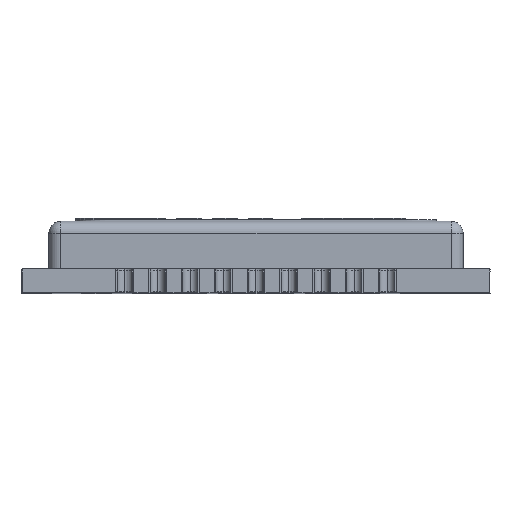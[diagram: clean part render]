
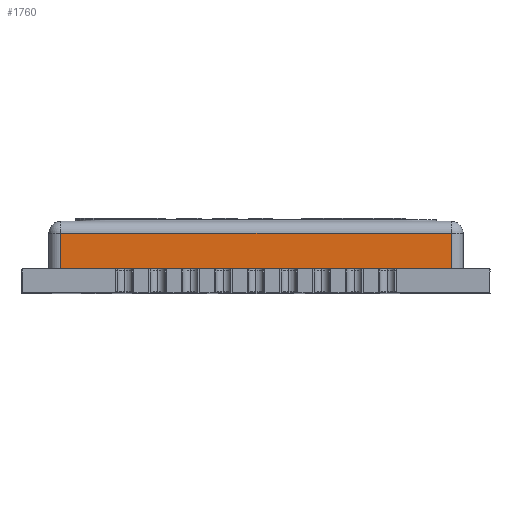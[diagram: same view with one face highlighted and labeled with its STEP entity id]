
A CAD part, top view. The second image highlights one B-rep face of the part: STEP entity #1760.
In plain terms, the highlighted planar face has unit normal (0, 0, 1).
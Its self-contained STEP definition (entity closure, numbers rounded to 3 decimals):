
#6 = VERTEX_POINT ( 'NONE', #90417 ) ;
#117 = VERTEX_POINT ( 'NONE', #124591 ) ;
#1760 = ADVANCED_FACE ( 'NONE', ( #21550 ), #117013, .F. ) ;
#9736 = AXIS2_PLACEMENT_3D ( 'NONE', #46463, #68114, #115439 ) ;
#13792 = EDGE_CURVE ( 'NONE', #117, #147650, #38745, .T. ) ;
#20067 = CARTESIAN_POINT ( 'NONE',  ( 6.55, 0.8, 7.9 ) ) ;
#21198 = DIRECTION ( 'NONE',  ( -1., 0., 0. ) ) ;
#21550 = FACE_OUTER_BOUND ( 'NONE', #96760, .T. ) ;
#27699 = VECTOR ( 'NONE', #111897, 1000. ) ;
#29439 = CARTESIAN_POINT ( 'NONE',  ( -6.55, 2.4, 7.9 ) ) ;
#38585 = ORIENTED_EDGE ( 'NONE', *, *, #55744, .T. ) ;
#38745 = LINE ( 'NONE', #29439, #106484 ) ;
#41370 = EDGE_CURVE ( 'NONE', #6, #117, #67774, .T. ) ;
#46463 = CARTESIAN_POINT ( 'NONE',  ( -6.95, 2.4, 7.9 ) ) ;
#46566 = CARTESIAN_POINT ( 'NONE',  ( -6.95, 0.8, 7.9 ) ) ;
#47347 = DIRECTION ( 'NONE',  ( 1., 0., 0. ) ) ;
#54842 = VECTOR ( 'NONE', #47347, 1000. ) ;
#55744 = EDGE_CURVE ( 'NONE', #71476, #6, #133791, .T. ) ;
#67774 = LINE ( 'NONE', #103433, #92290 ) ;
#68114 = DIRECTION ( 'NONE',  ( 0., 0., -1. ) ) ;
#69883 = EDGE_CURVE ( 'NONE', #147650, #71476, #94638, .T. ) ;
#71476 = VERTEX_POINT ( 'NONE', #20067 ) ;
#72086 = ORIENTED_EDGE ( 'NONE', *, *, #41370, .T. ) ;
#74763 = CARTESIAN_POINT ( 'NONE',  ( 6.55, 2.4, 7.9 ) ) ;
#90417 = CARTESIAN_POINT ( 'NONE',  ( 6.55, 2., 7.9 ) ) ;
#92290 = VECTOR ( 'NONE', #21198, 1000. ) ;
#94638 = LINE ( 'NONE', #46566, #54842 ) ;
#96760 = EDGE_LOOP ( 'NONE', ( #72086, #138854, #122775, #38585 ) ) ;
#103433 = CARTESIAN_POINT ( 'NONE',  ( -6.95, 2., 7.9 ) ) ;
#106484 = VECTOR ( 'NONE', #112341, 1000. ) ;
#111897 = DIRECTION ( 'NONE',  ( 0., 1., 0. ) ) ;
#112341 = DIRECTION ( 'NONE',  ( 0., -1., 0. ) ) ;
#115439 = DIRECTION ( 'NONE',  ( -1., 0., 0. ) ) ;
#117013 = PLANE ( 'NONE',  #9736 ) ;
#119113 = CARTESIAN_POINT ( 'NONE',  ( -6.55, 0.8, 7.9 ) ) ;
#122775 = ORIENTED_EDGE ( 'NONE', *, *, #69883, .T. ) ;
#124591 = CARTESIAN_POINT ( 'NONE',  ( -6.55, 2., 7.9 ) ) ;
#133791 = LINE ( 'NONE', #74763, #27699 ) ;
#138854 = ORIENTED_EDGE ( 'NONE', *, *, #13792, .T. ) ;
#147650 = VERTEX_POINT ( 'NONE', #119113 ) ;
